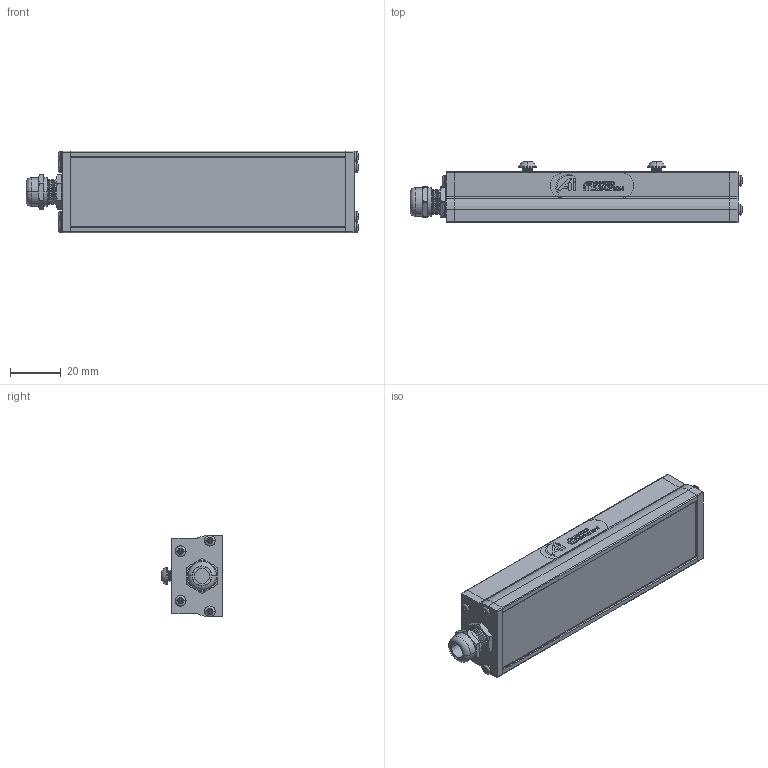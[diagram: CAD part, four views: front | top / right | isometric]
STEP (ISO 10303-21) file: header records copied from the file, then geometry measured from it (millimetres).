
FILE_DESCRIPTION (( 'STEP AP214' ), '1' );
FILE_NAME ('AL116 _NONSEALED__ALL11604.stp', '2021-04-29T14:22:05', ( '' ), ( '' ), 'SwSTEP 2.0', 'SolidWorks 2018', '' );
FILE_SCHEMA (( 'AUTOMOTIVE_DESIGN' ));
Length unit declared in the file: inch
Products named in the file (15): AL116 _NONSEALED__ALL11604; 093474_093474; 090878-XX_090878-04; HN-M4_90592A016; 10mm Ai; BH-M4x6; 10mm Swish_Default<As Machined>; 091064_Model_Dome Fittings_Thread Type and Size(Dome)_M10 x 1.5_Hazardous Location-Explosive Proof(ATEX and EExe Versions)_No_; 10mm Advanced illumination; 090888-XX_090888-04; 090869; 090870; 10mm Label (116 126)_Default<As Machined>; 091052 (116 126); 093469_093469
Assembly tree (24 placements, depth 3):
  AL116 _NONSEALED__ALL11604
    090888-XX_090888-04
    093469_093469  x2
    090869
    090870
    090878-XX_090878-04
    093474_093474  x8
    091064_Model_Dome Fittings_Thread Type and Size(Dome)_M10 x 1.5_Hazardous Location-Explosive Proof(ATEX and EExe Versions)_No_
    091052 (116 126)
      10mm Label (116 126)_Default<As Machined>
      10mm Ai
      10mm Swish_Default<As Machined>
      10mm Advanced illumination
    HN-M4_90592A016  x2
    BH-M4x6  x2
Bounding box: 130.73 x 24.1 x 32.21 mm (x, y, z)
Volume: 25592.2 mm3; surface area: 37067.4 mm2
Topology: 48 solids, 48 shells, 1911 faces, 4942 edges, 3078 vertices
Faces by surface type: cylinder 954, plane 413, cone 362, bspline 122, torus 60
Entity records: 31843 total; most frequent: CARTESIAN_POINT 11151, ORIENTED_EDGE 4280, DIRECTION 3753, EDGE_CURVE 2140, VERTEX_POINT 1366, AXIS2_PLACEMENT_3D 1335, VECTOR 1083, LINE 1083
